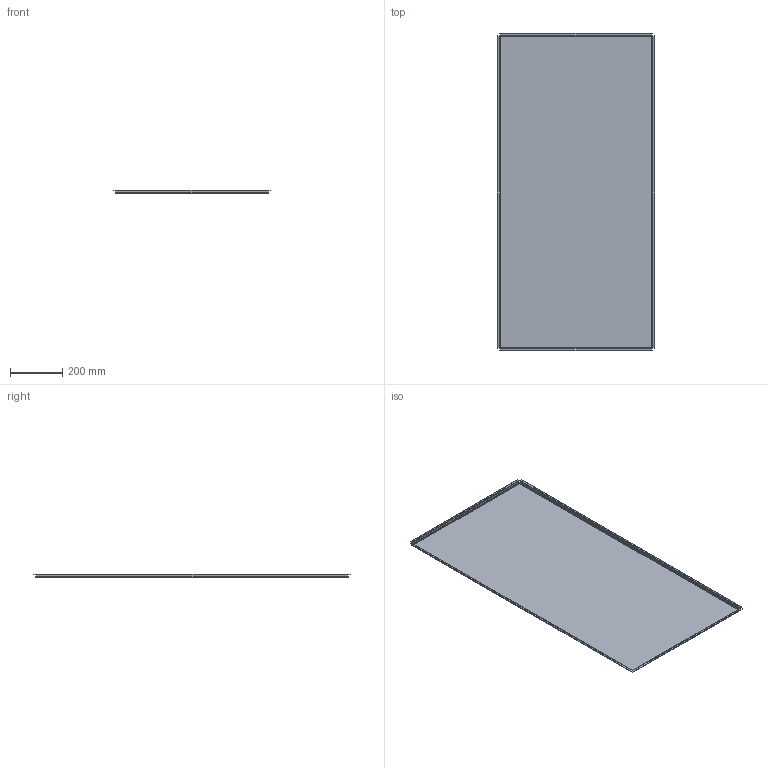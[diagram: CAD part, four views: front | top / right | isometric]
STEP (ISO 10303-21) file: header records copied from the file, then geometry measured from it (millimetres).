
FILE_DESCRIPTION(/* description */ (''),/* implementation_level */ '2;1');
FILE_NAME(/* name */ 'SM_LayInTile_2x4',/* time_stamp */ '2024-10-14T14:40:12-05:00',/* author */ (''),/* organization */ (''),/* preprocessor_version */ 'ST-DEVELOPER v19.2',/* originating_system */ 'Rhino 8.4',/* authorisation */ '');
FILE_SCHEMA (('CONFIG_CONTROL_DESIGN'));
Length unit declared in the file: inch
Products named in the file (1): Document
Bounding box: 600.55 x 1210.15 x 13.13 mm (x, y, z)
Volume: 773439 mm3; surface area: 1526304 mm2
Topology: 1 solids, 1 shells, 102 faces, 212 edges, 112 vertices
Faces by surface type: plane 70, cylinder 24, bspline 8
Entity records: 2602 total; most frequent: CARTESIAN_POINT 824, ORIENTED_EDGE 424, EDGE_CURVE 212, B_SPLINE_CURVE_WITH_KNOTS 180, DIRECTION 162, AXIS2_PLACEMENT_3D 128, VERTEX_POINT 112, ADVANCED_FACE 102
